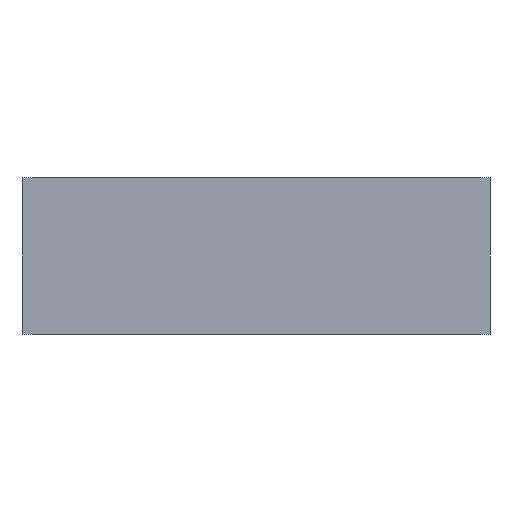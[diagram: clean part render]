
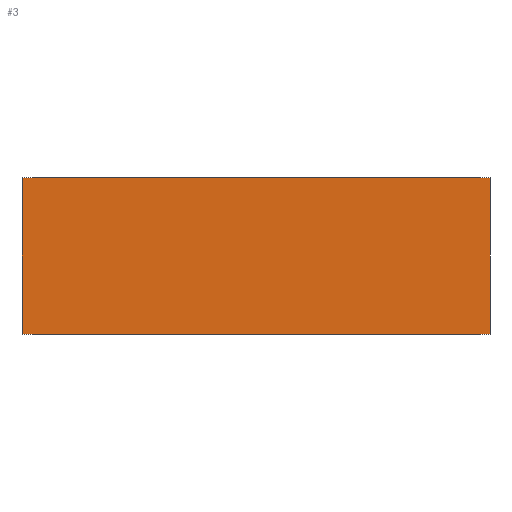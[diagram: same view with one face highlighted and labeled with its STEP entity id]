
A CAD part, front view. The second image highlights one B-rep face of the part: STEP entity #3.
In plain terms, the highlighted planar face has unit normal (0, -1, 0).
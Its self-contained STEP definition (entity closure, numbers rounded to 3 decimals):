
#3 = ADVANCED_FACE ( 'NONE', ( #284 ), #34, .F. ) ;
#13 = CARTESIAN_POINT ( 'NONE',  ( -179., 0., 120. ) ) ;
#19 = VERTEX_POINT ( 'NONE', #160 ) ;
#21 = VERTEX_POINT ( 'NONE', #150 ) ;
#25 = VERTEX_POINT ( 'NONE', #147 ) ;
#29 = VERTEX_POINT ( 'NONE', #143 ) ;
#34 = PLANE ( 'NONE',  #44 ) ;
#44 = AXIS2_PLACEMENT_3D ( 'NONE', #13, #87, #89 ) ;
#46 = EDGE_CURVE ( 'NONE', #19, #21, #256, .T. ) ;
#66 = EDGE_CURVE ( 'NONE', #29, #19, #313, .T. ) ;
#67 = EDGE_CURVE ( 'NONE', #25, #21, #306, .T. ) ;
#77 = EDGE_CURVE ( 'NONE', #29, #25, #323, .T. ) ;
#87 = DIRECTION ( 'NONE',  ( 0., 1., 0. ) ) ;
#89 = DIRECTION ( 'NONE',  ( -1., 0., 0. ) ) ;
#99 = CARTESIAN_POINT ( 'NONE',  ( -179., 0., 120. ) ) ;
#101 = CARTESIAN_POINT ( 'NONE',  ( -179., 0., 120. ) ) ;
#102 = CARTESIAN_POINT ( 'NONE',  ( -179., 0., 0. ) ) ;
#103 = DIRECTION ( 'NONE',  ( 1., 0., 0. ) ) ;
#128 = DIRECTION ( 'NONE',  ( 0., 0., -1. ) ) ;
#131 = CARTESIAN_POINT ( 'NONE',  ( 179., 0., 120. ) ) ;
#143 = CARTESIAN_POINT ( 'NONE',  ( -179., 0., 120. ) ) ;
#147 = CARTESIAN_POINT ( 'NONE',  ( -179., 0., 0. ) ) ;
#150 = CARTESIAN_POINT ( 'NONE',  ( 179., 0., 0. ) ) ;
#160 = CARTESIAN_POINT ( 'NONE',  ( 179., 0., 120. ) ) ;
#189 = DIRECTION ( 'NONE',  ( 1., 0., 0. ) ) ;
#192 = DIRECTION ( 'NONE',  ( 0., 0., -1. ) ) ;
#216 = ORIENTED_EDGE ( 'NONE', *, *, #46, .F. ) ;
#219 = EDGE_LOOP ( 'NONE', ( #243, #216, #274, #275 ) ) ;
#226 = VECTOR ( 'NONE', #192, 1000. ) ;
#239 = VECTOR ( 'NONE', #189, 1000. ) ;
#243 = ORIENTED_EDGE ( 'NONE', *, *, #67, .T. ) ;
#256 = LINE ( 'NONE', #131, #288 ) ;
#274 = ORIENTED_EDGE ( 'NONE', *, *, #66, .F. ) ;
#275 = ORIENTED_EDGE ( 'NONE', *, *, #77, .T. ) ;
#284 = FACE_OUTER_BOUND ( 'NONE', #219, .T. ) ;
#288 = VECTOR ( 'NONE', #128, 1000. ) ;
#306 = LINE ( 'NONE', #102, #239 ) ;
#313 = LINE ( 'NONE', #101, #319 ) ;
#319 = VECTOR ( 'NONE', #103, 1000. ) ;
#323 = LINE ( 'NONE', #99, #226 ) ;
